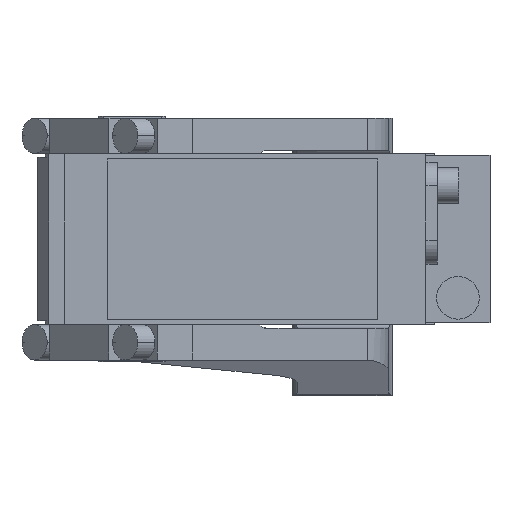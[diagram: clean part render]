
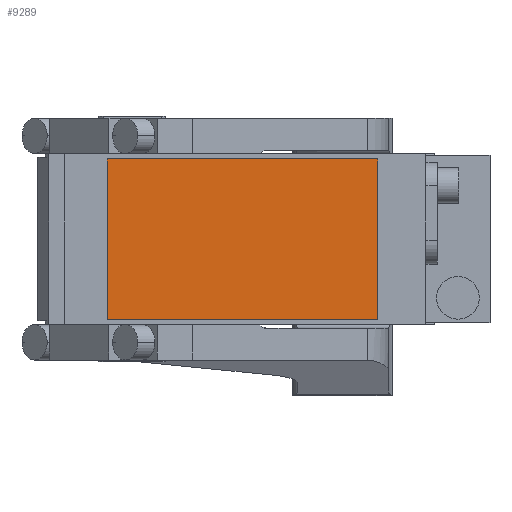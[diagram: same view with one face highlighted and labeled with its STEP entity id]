
A CAD part, front view. The second image highlights one B-rep face of the part: STEP entity #9289.
In plain terms, the highlighted planar face has unit normal (0, -1, 0).
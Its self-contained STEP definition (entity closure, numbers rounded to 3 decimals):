
#287 = DIRECTION ( 'NONE',  ( 0., 0., -1. ) ) ;
#2071 = EDGE_CURVE ( 'NONE', #7243, #6786, #8001, .T. ) ;
#2495 = PLANE ( 'NONE',  #12222 ) ;
#2512 = LINE ( 'NONE', #6808, #11731 ) ;
#2703 = FACE_OUTER_BOUND ( 'NONE', #4645, .T. ) ;
#3117 = CARTESIAN_POINT ( 'NONE',  ( 69., -280.5, -22.5 ) ) ;
#3166 = DIRECTION ( 'NONE',  ( 0., 0., 1. ) ) ;
#3455 = DIRECTION ( 'NONE',  ( 0., -1., 0. ) ) ;
#4093 = VECTOR ( 'NONE', #3166, 1000. ) ;
#4645 = EDGE_LOOP ( 'NONE', ( #6541, #5390, #8147, #8584 ) ) ;
#4747 = CARTESIAN_POINT ( 'NONE',  ( -7., -280.5, 22.5 ) ) ;
#5390 = ORIENTED_EDGE ( 'NONE', *, *, #2071, .T. ) ;
#6541 = ORIENTED_EDGE ( 'NONE', *, *, #8229, .T. ) ;
#6745 = VERTEX_POINT ( 'NONE', #11969 ) ;
#6786 = VERTEX_POINT ( 'NONE', #3117 ) ;
#6808 = CARTESIAN_POINT ( 'NONE',  ( -7., -280.5, 22.5 ) ) ;
#7082 = DIRECTION ( 'NONE',  ( -1., 0., 0. ) ) ;
#7243 = VERTEX_POINT ( 'NONE', #13508 ) ;
#8001 = LINE ( 'NONE', #8082, #8273 ) ;
#8082 = CARTESIAN_POINT ( 'NONE',  ( -7., -280.5, -22.5 ) ) ;
#8129 = VERTEX_POINT ( 'NONE', #8688 ) ;
#8147 = ORIENTED_EDGE ( 'NONE', *, *, #9516, .T. ) ;
#8229 = EDGE_CURVE ( 'NONE', #8129, #7243, #13342, .T. ) ;
#8273 = VECTOR ( 'NONE', #9142, 1000. ) ;
#8539 = CARTESIAN_POINT ( 'NONE',  ( 69., -280.5, 22.5 ) ) ;
#8584 = ORIENTED_EDGE ( 'NONE', *, *, #9069, .T. ) ;
#8688 = CARTESIAN_POINT ( 'NONE',  ( -7., -280.5, 22.5 ) ) ;
#9069 = EDGE_CURVE ( 'NONE', #6745, #8129, #2512, .T. ) ;
#9142 = DIRECTION ( 'NONE',  ( 1., 0., 0. ) ) ;
#9289 = ADVANCED_FACE ( 'NONE', ( #2703 ), #2495, .T. ) ;
#9516 = EDGE_CURVE ( 'NONE', #6786, #6745, #13026, .T. ) ;
#10250 = DIRECTION ( 'NONE',  ( 0., 0., -1. ) ) ;
#11731 = VECTOR ( 'NONE', #7082, 1000. ) ;
#11969 = CARTESIAN_POINT ( 'NONE',  ( 69., -280.5, 22.5 ) ) ;
#12222 = AXIS2_PLACEMENT_3D ( 'NONE', #12322, #3455, #10250 ) ;
#12322 = CARTESIAN_POINT ( 'NONE',  ( 0., -280.5, 0. ) ) ;
#13026 = LINE ( 'NONE', #8539, #4093 ) ;
#13342 = LINE ( 'NONE', #4747, #13857 ) ;
#13508 = CARTESIAN_POINT ( 'NONE',  ( -7., -280.5, -22.5 ) ) ;
#13857 = VECTOR ( 'NONE', #287, 1000. ) ;
